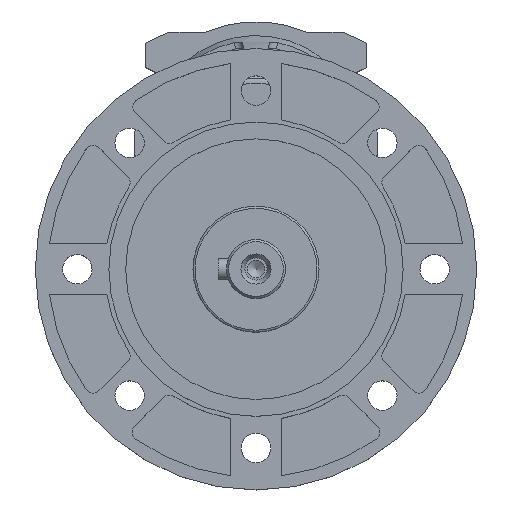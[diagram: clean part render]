
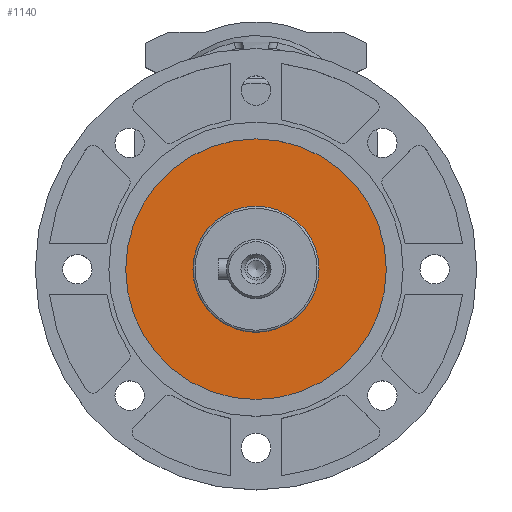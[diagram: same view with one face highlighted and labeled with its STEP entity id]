
A CAD part, top view. The second image highlights one B-rep face of the part: STEP entity #1140.
In plain terms, the highlighted planar face has unit normal (0, 0, 1).
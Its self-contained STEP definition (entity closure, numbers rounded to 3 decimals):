
#1140 = ADVANCED_FACE( '', ( #2500, #2501 ), #2502, .F. );
#2500 = FACE_BOUND( '', #4304, .T. );
#2501 = FACE_OUTER_BOUND( '', #4305, .T. );
#2502 = PLANE( '', #4306 );
#4304 = EDGE_LOOP( '', ( #8044 ) );
#4305 = EDGE_LOOP( '', ( #8045 ) );
#4306 = AXIS2_PLACEMENT_3D( '', #8046, #8047, #8048 );
#8044 = ORIENTED_EDGE( '', *, *, #10706, .F. );
#8045 = ORIENTED_EDGE( '', *, *, #10707, .F. );
#8046 = CARTESIAN_POINT( '', ( 0., 0., 0. ) );
#8047 = DIRECTION( '', ( 0., 0., -1. ) );
#8048 = DIRECTION( '', ( 0., -1., 0. ) );
#10706 = EDGE_CURVE( '', #13124, #13124, #13125, .T. );
#10707 = EDGE_CURVE( '', #13126, #13126, #13127, .T. );
#13124 = VERTEX_POINT( '', #17252 );
#13125 = CIRCLE( '', #17253, 15. );
#13126 = VERTEX_POINT( '', #17254 );
#13127 = CIRCLE( '', #17255, 31. );
#17252 = CARTESIAN_POINT( '', ( 15., 0., 0. ) );
#17253 = AXIS2_PLACEMENT_3D( '', #19004, #19005, #19006 );
#17254 = CARTESIAN_POINT( '', ( -31., 0., 0. ) );
#17255 = AXIS2_PLACEMENT_3D( '', #19007, #19008, #19009 );
#19004 = CARTESIAN_POINT( '', ( 0., 0., 0. ) );
#19005 = DIRECTION( '', ( 0., 0., 1. ) );
#19006 = DIRECTION( '', ( 1., 0., 0. ) );
#19007 = CARTESIAN_POINT( '', ( 0., 0., 0. ) );
#19008 = DIRECTION( '', ( 0., 0., -1. ) );
#19009 = DIRECTION( '', ( -1., 0., 0. ) );
